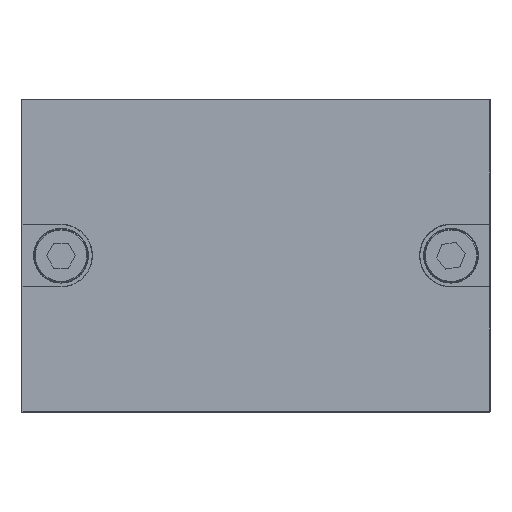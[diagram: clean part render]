
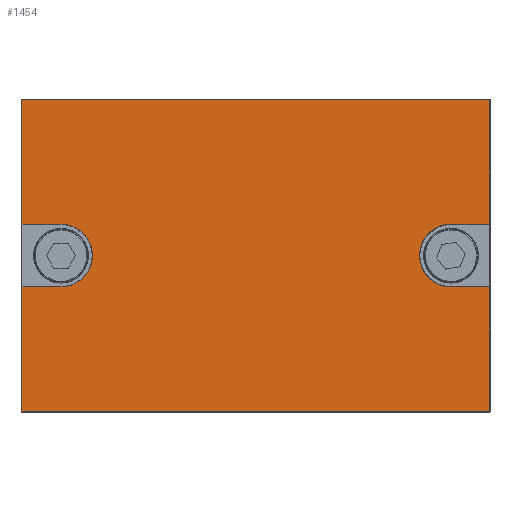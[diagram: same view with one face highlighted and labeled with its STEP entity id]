
A CAD part, top view. The second image highlights one B-rep face of the part: STEP entity #1454.
In plain terms, the highlighted planar face has unit normal (0, 0, 1).
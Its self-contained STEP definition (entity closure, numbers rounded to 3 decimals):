
#7 = DIRECTION ( 'NONE',  ( 0., 1., 0. ) ) ;
#199 = CARTESIAN_POINT ( 'NONE',  ( 34.994, -4., 69. ) ) ;
#282 = EDGE_CURVE ( 'NONE', #9607, #8470, #8989, .T. ) ;
#394 = DIRECTION ( 'NONE',  ( 0., 0., 1. ) ) ;
#403 = CARTESIAN_POINT ( 'NONE',  ( 34.994, 4., 69. ) ) ;
#410 = EDGE_CURVE ( 'NONE', #9404, #8799, #5084, .T. ) ;
#452 = EDGE_LOOP ( 'NONE', ( #739, #6288, #2351, #9002, #1903, #2153, #8856, #3466, #6624, #5232, #1908, #2557, #5925 ) ) ;
#475 = CARTESIAN_POINT ( 'NONE',  ( -30., -20., 69. ) ) ;
#484 = LINE ( 'NONE', #9237, #5501 ) ;
#620 = CARTESIAN_POINT ( 'NONE',  ( 30., 20., 69. ) ) ;
#739 = ORIENTED_EDGE ( 'NONE', *, *, #3368, .F. ) ;
#759 = VERTEX_POINT ( 'NONE', #1117 ) ;
#1087 = VECTOR ( 'NONE', #1474, 1000. ) ;
#1117 = CARTESIAN_POINT ( 'NONE',  ( 25.448, -4., 69. ) ) ;
#1196 = DIRECTION ( 'NONE',  ( 1., 0., 0. ) ) ;
#1310 = VECTOR ( 'NONE', #7, 1000. ) ;
#1378 = AXIS2_PLACEMENT_3D ( 'NONE', #8962, #394, #2774 ) ;
#1389 = VECTOR ( 'NONE', #8504, 1000. ) ;
#1448 = DIRECTION ( 'NONE',  ( -1., 0., 0. ) ) ;
#1454 = ADVANCED_FACE ( 'NONE', ( #10063 ), #7765, .T. ) ;
#1474 = DIRECTION ( 'NONE',  ( -1., 0., 0. ) ) ;
#1488 = CARTESIAN_POINT ( 'NONE',  ( 0., 0., 69. ) ) ;
#1547 = CIRCLE ( 'NONE', #5432, 4.025 ) ;
#1563 = DIRECTION ( 'NONE',  ( 1., 0., 0. ) ) ;
#1685 = EDGE_CURVE ( 'NONE', #759, #5977, #4685, .T. ) ;
#1765 = CARTESIAN_POINT ( 'NONE',  ( -30., 4.025, 69. ) ) ;
#1860 = CARTESIAN_POINT ( 'NONE',  ( -25., 4.025, 69. ) ) ;
#1903 = ORIENTED_EDGE ( 'NONE', *, *, #1685, .F. ) ;
#1908 = ORIENTED_EDGE ( 'NONE', *, *, #8821, .F. ) ;
#1945 = LINE ( 'NONE', #8250, #6854 ) ;
#2128 = DIRECTION ( 'NONE',  ( 1., 0., 0. ) ) ;
#2153 = ORIENTED_EDGE ( 'NONE', *, *, #5446, .F. ) ;
#2172 = DIRECTION ( 'NONE',  ( 0., 0., 1. ) ) ;
#2207 = DIRECTION ( 'NONE',  ( 0., 0., 1. ) ) ;
#2351 = ORIENTED_EDGE ( 'NONE', *, *, #410, .T. ) ;
#2377 = CARTESIAN_POINT ( 'NONE',  ( -35., 4.025, 69. ) ) ;
#2531 = LINE ( 'NONE', #2377, #4631 ) ;
#2542 = DIRECTION ( 'NONE',  ( 1., 0., 0. ) ) ;
#2557 = ORIENTED_EDGE ( 'NONE', *, *, #7986, .F. ) ;
#2641 = CARTESIAN_POINT ( 'NONE',  ( -20.975, 0., 69. ) ) ;
#2680 = CARTESIAN_POINT ( 'NONE',  ( -30., -4.025, 69. ) ) ;
#2762 = VERTEX_POINT ( 'NONE', #2641 ) ;
#2774 = DIRECTION ( 'NONE',  ( 1., 0., 0. ) ) ;
#2907 = EDGE_CURVE ( 'NONE', #10044, #9404, #484, .T. ) ;
#3127 = VECTOR ( 'NONE', #5917, 1000. ) ;
#3172 = LINE ( 'NONE', #7246, #10136 ) ;
#3368 = EDGE_CURVE ( 'NONE', #10044, #5243, #1945, .T. ) ;
#3444 = EDGE_CURVE ( 'NONE', #7284, #9607, #7102, .T. ) ;
#3466 = ORIENTED_EDGE ( 'NONE', *, *, #6184, .T. ) ;
#3902 = DIRECTION ( 'NONE',  ( 0., 0., 1. ) ) ;
#4219 = CARTESIAN_POINT ( 'NONE',  ( -30., 20., 69. ) ) ;
#4631 = VECTOR ( 'NONE', #1448, 1000. ) ;
#4685 = LINE ( 'NONE', #199, #9198 ) ;
#4866 = CARTESIAN_POINT ( 'NONE',  ( 30., 20., 69. ) ) ;
#4891 = LINE ( 'NONE', #10098, #1310 ) ;
#4931 = VERTEX_POINT ( 'NONE', #9264 ) ;
#5007 = VECTOR ( 'NONE', #5152, 1000. ) ;
#5084 = LINE ( 'NONE', #9238, #1389 ) ;
#5152 = DIRECTION ( 'NONE',  ( -1., 0., 0. ) ) ;
#5232 = ORIENTED_EDGE ( 'NONE', *, *, #282, .T. ) ;
#5243 = VERTEX_POINT ( 'NONE', #7099 ) ;
#5432 = AXIS2_PLACEMENT_3D ( 'NONE', #6249, #3902, #1563 ) ;
#5446 = EDGE_CURVE ( 'NONE', #4931, #759, #7352, .T. ) ;
#5501 = VECTOR ( 'NONE', #9271, 1000. ) ;
#5917 = DIRECTION ( 'NONE',  ( 0., -1., 0. ) ) ;
#5924 = VERTEX_POINT ( 'NONE', #6428 ) ;
#5925 = ORIENTED_EDGE ( 'NONE', *, *, #9895, .F. ) ;
#5977 = VERTEX_POINT ( 'NONE', #7236 ) ;
#6148 = DIRECTION ( 'NONE',  ( 1., 0., 0. ) ) ;
#6184 = EDGE_CURVE ( 'NONE', #5924, #7284, #4891, .T. ) ;
#6208 = CARTESIAN_POINT ( 'NONE',  ( 30., -20., 69. ) ) ;
#6249 = CARTESIAN_POINT ( 'NONE',  ( -25., 0., 69. ) ) ;
#6269 = EDGE_CURVE ( 'NONE', #8799, #5977, #3172, .T. ) ;
#6288 = ORIENTED_EDGE ( 'NONE', *, *, #2907, .T. ) ;
#6335 = EDGE_CURVE ( 'NONE', #5924, #4931, #6724, .T. ) ;
#6428 = CARTESIAN_POINT ( 'NONE',  ( 30., 4., 69. ) ) ;
#6624 = ORIENTED_EDGE ( 'NONE', *, *, #3444, .T. ) ;
#6675 = AXIS2_PLACEMENT_3D ( 'NONE', #8447, #2207, #2128 ) ;
#6724 = LINE ( 'NONE', #403, #5007 ) ;
#6854 = VECTOR ( 'NONE', #1196, 1000. ) ;
#7099 = CARTESIAN_POINT ( 'NONE',  ( -25., -4.025, 69. ) ) ;
#7102 = LINE ( 'NONE', #620, #1087 ) ;
#7236 = CARTESIAN_POINT ( 'NONE',  ( 30., -4., 69. ) ) ;
#7246 = CARTESIAN_POINT ( 'NONE',  ( 30., -20., 69. ) ) ;
#7284 = VERTEX_POINT ( 'NONE', #4866 ) ;
#7352 = CIRCLE ( 'NONE', #6675, 4.025 ) ;
#7765 = PLANE ( 'NONE',  #8575 ) ;
#7825 = CIRCLE ( 'NONE', #1378, 4.025 ) ;
#7986 = EDGE_CURVE ( 'NONE', #2762, #8966, #7825, .T. ) ;
#8065 = DIRECTION ( 'NONE',  ( 0., 1., 0. ) ) ;
#8250 = CARTESIAN_POINT ( 'NONE',  ( -35., -4.025, 69. ) ) ;
#8447 = CARTESIAN_POINT ( 'NONE',  ( 25., 0., 69. ) ) ;
#8470 = VERTEX_POINT ( 'NONE', #1765 ) ;
#8504 = DIRECTION ( 'NONE',  ( 1., 0., 0. ) ) ;
#8575 = AXIS2_PLACEMENT_3D ( 'NONE', #1488, #2172, #6148 ) ;
#8799 = VERTEX_POINT ( 'NONE', #6208 ) ;
#8821 = EDGE_CURVE ( 'NONE', #8966, #8470, #2531, .T. ) ;
#8856 = ORIENTED_EDGE ( 'NONE', *, *, #6335, .F. ) ;
#8962 = CARTESIAN_POINT ( 'NONE',  ( -25., 0., 69. ) ) ;
#8966 = VERTEX_POINT ( 'NONE', #1860 ) ;
#8989 = LINE ( 'NONE', #475, #3127 ) ;
#9002 = ORIENTED_EDGE ( 'NONE', *, *, #6269, .T. ) ;
#9198 = VECTOR ( 'NONE', #2542, 1000. ) ;
#9237 = CARTESIAN_POINT ( 'NONE',  ( -30., -20., 69. ) ) ;
#9238 = CARTESIAN_POINT ( 'NONE',  ( 30., -20., 69. ) ) ;
#9264 = CARTESIAN_POINT ( 'NONE',  ( 25.448, 4., 69. ) ) ;
#9271 = DIRECTION ( 'NONE',  ( 0., -1., 0. ) ) ;
#9404 = VERTEX_POINT ( 'NONE', #9437 ) ;
#9437 = CARTESIAN_POINT ( 'NONE',  ( -30., -20., 69. ) ) ;
#9607 = VERTEX_POINT ( 'NONE', #4219 ) ;
#9895 = EDGE_CURVE ( 'NONE', #5243, #2762, #1547, .T. ) ;
#10044 = VERTEX_POINT ( 'NONE', #2680 ) ;
#10063 = FACE_OUTER_BOUND ( 'NONE', #452, .T. ) ;
#10098 = CARTESIAN_POINT ( 'NONE',  ( 30., -20., 69. ) ) ;
#10136 = VECTOR ( 'NONE', #8065, 1000. ) ;
